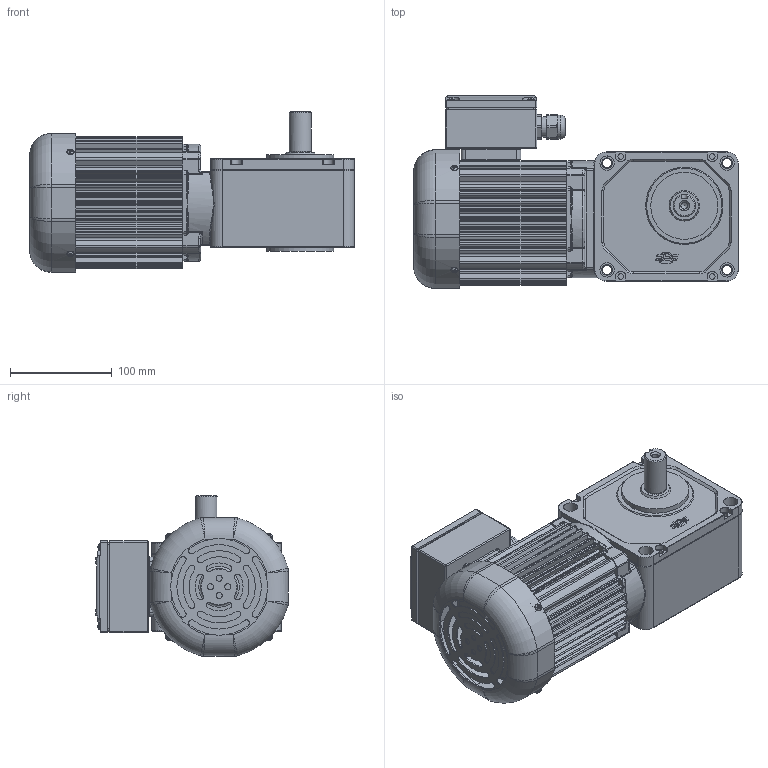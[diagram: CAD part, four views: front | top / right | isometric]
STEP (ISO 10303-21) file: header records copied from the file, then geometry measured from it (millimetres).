
FILE_DESCRIPTION(/* description */ (''),/* implementation_level */ '2;1');
FILE_NAME(/* name */ 'Z:\동력 3D 파일\PCS22L_0.2kW_3D.stp',/* time_stamp */ '2021-11-09T10:30:36+09:00',/* author */ ('jaebok'),/* organization */ (''),/* preprocessor_version */ 'ST-DEVELOPER v18.1',/* originating_system */ 'Autodesk Inventor 2022',/* authorisation */ '');
FILE_SCHEMA (('AUTOMOTIVE_DESIGN { 1 0 10303 214 3 1 1 }'));
Products named in the file (1): 부품35
Bounding box: 319 x 189.7 x 157.7 mm (x, y, z)
Volume: 1560363.5 mm3; surface area: 486329.4 mm2
Topology: 1 solids, 32 shells, 1913 faces, 4946 edges, 3126 vertices
Faces by surface type: plane 855, cylinder 687, torus 138, cone 110, bspline 107, sphere 16
Full cylindrical faces by diameter (mm): 2 x1, 3.242 x9, 3.25 x1, 3.6 x4, 4 x21, 5 x13, 5.386 x4, 5.5 x4, 6 x8, 6.647 x1, 7 x12, 8 x1, 9 x4, 10 x1, 12.5 x1, 14 x8, 15 x1, 20 x2, 21 x1, 22 x1, 23.6 x1, 25 x1, 27 x1, 30 x1, 34 x1, 40 x2, 45 x2, 54 x1, 60 x2, 66 x4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
Entity records: 65086 total; most frequent: CARTESIAN_POINT 16051, DIRECTION 10060, ORIENTED_EDGE 9792, EDGE_CURVE 4896, AXIS2_PLACEMENT_3D 3808, VERTEX_POINT 3126, LINE 2444, VECTOR 2444
